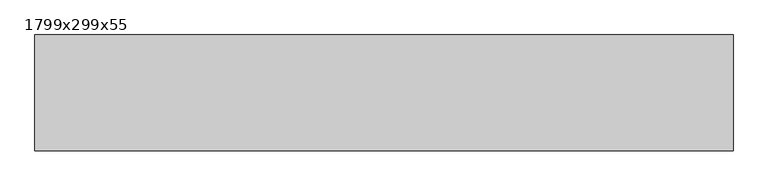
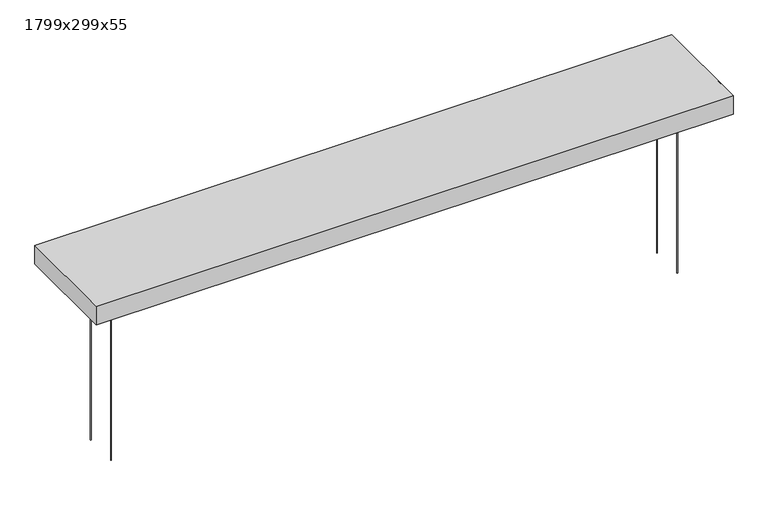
"""IFC4 building model written with IfcOpenShell, lengths in millimetres: proxy geometry, Texaa_Plafond respirant_Strato_Panneaux absorbant : 1799x299x55."""

from ifc_helpers import new_model, si_unit, point, frame, frame_2d, origin, origin_with_axes, place, context, project, spatial, polyline, circle_curve, trimmed, segment, composite_curve, outline, extrude, faceted_brep, source, transform, mapped, element, save


def proxy_1799x299x55_9af79853(model_context):
    return source(origin(), model_context, "Body", "SolidModel", [
        extrude(outline(composite_curve([segment(trimmed(circle_curve(frame_2d((-799.5, -49.5)), 0.75), [point((-800.25, -49.5))], [point((-798.75, -49.5))], False, "CARTESIAN"), True, "CONTINUOUS"), segment(trimmed(circle_curve(frame_2d((-799.5, -49.5)), 0.75), [point((-798.75, -49.5))], [point((-800.25, -49.5))], False, "CARTESIAN"), True, "CONTINUOUS")], self_intersect=False)), origin_with_axes(), (0.0, 0.0, 1.0), 500.0),
        extrude(outline(composite_curve([segment(trimmed(circle_curve(frame_2d((799.5, -49.5)), 0.75), [point((798.75, -49.5))], [point((800.25, -49.5))], False, "CARTESIAN"), True, "CONTINUOUS"), segment(trimmed(circle_curve(frame_2d((799.5, -49.5)), 0.75), [point((800.25, -49.5))], [point((798.75, -49.5))], False, "CARTESIAN"), True, "CONTINUOUS")], self_intersect=False)), origin_with_axes(), (0.0, 0.0, 1.0), 500.0),
        extrude(outline(composite_curve([segment(trimmed(circle_curve(frame_2d((799.5, 49.5)), 0.75), [point((798.75, 49.5))], [point((800.25, 49.5))], False, "CARTESIAN"), True, "CONTINUOUS"), segment(trimmed(circle_curve(frame_2d((799.5, 49.5)), 0.75), [point((800.25, 49.5))], [point((798.75, 49.5))], False, "CARTESIAN"), True, "CONTINUOUS")], self_intersect=False)), origin_with_axes(), (0.0, 0.0, 1.0), 500.0),
        extrude(outline(composite_curve([segment(trimmed(circle_curve(frame_2d((-799.5, 49.5)), 0.75), [point((-800.25, 49.5))], [point((-798.75, 49.5))], False, "CARTESIAN"), True, "CONTINUOUS"), segment(trimmed(circle_curve(frame_2d((-799.5, 49.5)), 0.75), [point((-798.75, 49.5))], [point((-800.25, 49.5))], False, "CARTESIAN"), True, "CONTINUOUS")], self_intersect=False)), origin_with_axes(), (0.0, 0.0, 1.0), 500.0),
        extrude(outline(polyline([(-898.5, -148.5), (-898.5, 148.5), (898.5, 148.5), (898.5, -148.5), (-898.5, -148.5)])), frame((0.0, 0.0, 501.0), z_axis=(0.0, 0.0, 1.0), x_axis=(1.0, 0.0, 0.0)), (0.0, 0.0, 1.0), 53.0),
        faceted_brep([(-899.5, -149.5, 555.0), (899.5, -149.5, 555.0), (899.5, 149.5, 555.0), (-899.5, 149.5, 555.0), (-899.5, -149.5, 500.0), (-899.5, 149.5, 500.0), (899.5, 149.5, 500.0), (899.5, -149.5, 500.0), (-849.5, 99.5, 500.0), (-849.5, -99.5, 500.0), (849.5, -99.5, 500.0), (849.5, 99.5, 500.0), (849.5, 99.5, 501.0), (-849.5, 99.5, 501.0), (849.5, -99.5, 501.0), (-849.5, -99.5, 501.0), (-898.5, -148.5, 554.0), (-898.5, 148.5, 554.0), (898.5, 148.5, 554.0), (898.5, -148.5, 554.0), (-898.5, -148.5, 501.0), (898.5, -148.5, 501.0), (898.5, 148.5, 501.0), (-898.5, 148.5, 501.0)], [[[0, 1, 2, 3]], [[4, 5, 6, 7], [8, 9, 10, 11]], [[3, 5, 4, 0]], [[2, 6, 5, 3]], [[1, 7, 6, 2]], [[0, 4, 7, 1]], [[8, 11, 12, 13]], [[11, 10, 14, 12]], [[10, 9, 15, 14]], [[13, 15, 9, 8]], [[16, 17, 18, 19]], [[20, 21, 22, 23], [12, 14, 15, 13]], [[16, 20, 23, 17]], [[17, 23, 22, 18]], [[18, 22, 21, 19]], [[19, 21, 20, 16]]]),
    ])


if __name__ == "__main__":
    model = new_model("IFC4")
    model_context = context("Model", 3, world=origin())
    ifc_project = project(units=[si_unit("LENGTHUNIT", "METRE", prefix="MILLI")], contexts=[model_context])
    site = spatial("IfcSite", under=ifc_project)
    building = spatial("IfcBuilding", under=site)
    placement = place(None, origin())
    proxy_1799x299x55_shape = proxy_1799x299x55_9af79853(model_context)
    element("IfcBuildingElementProxy", 1, Name="Texaa_Plafond respirant_Strato_Panneaux absorbant : 1799x299x55", ObjectType="Texaa_Plafond respirant_Strato_Panneaux absorbant : 1799x299x55", at=placement, inside=building, context=model_context, shape_type="MappedRepresentation", body=[
        mapped(proxy_1799x299x55_shape, transform((0.0, 0.0, 0.0), x_axis=(1.0, 0.0, 0.0), y_axis=(0.0, 1.0, 0.0), z_axis=(0.0, 0.0, 1.0))),
    ])
    save(model, "model.ifc")
